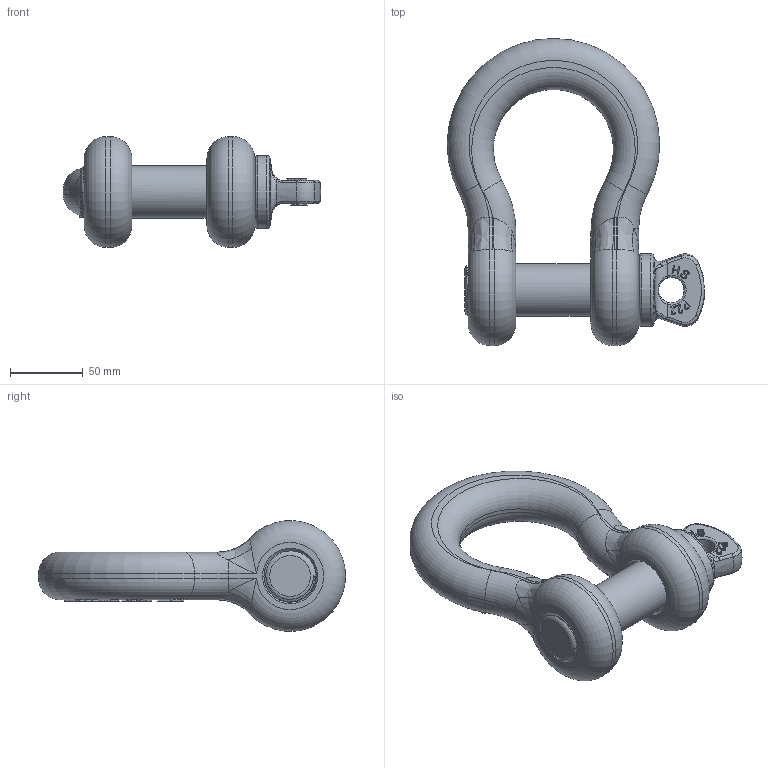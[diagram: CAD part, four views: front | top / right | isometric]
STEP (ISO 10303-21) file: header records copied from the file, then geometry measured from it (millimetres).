
FILE_DESCRIPTION(/* description */ (''),/* implementation_level */ '2;1');
FILE_NAME(/* name */ 'G-209A-1-1-4.stp',/* time_stamp */ '2025-04-07T11:05:06+08:00',/* author */ (''),/* organization */ (''),/* preprocessor_version */ 'ST-DEVELOPER v16',/* originating_system */ 'SIEMENS PLM Software NX 10.0',/* authorisation */ '');
FILE_SCHEMA (('AP203_CONFIGURATION_CONTROLLED_3D_DESIGN_OF_MECHANICAL_PARTS_AND_ASSEMBLIES_MIM_LF { 1 0 10303 403 2 1 2}'));
Length unit declared in the file: millimetre
Products named in the file (1): Admi2C384395bu72
Bounding box: 176.97 x 211.1 x 76.16 mm (x, y, z)
Volume: 625948.5 mm3; surface area: 88544.8 mm2
Topology: 2 solids, 2 shells, 561 faces, 1543 edges, 995 vertices
Faces by surface type: plane 244, extrusion 147, cylinder 70, bspline 52, torus 38, cone 9, sphere 1
Full cylindrical faces by diameter (mm): 17.5 x1, 36 x7, 38 x1, 50 x1
Entity records: 24260 total; most frequent: CARTESIAN_POINT 11821, ORIENTED_EDGE 2970, DIRECTION 1826, EDGE_CURVE 1485, VERTEX_POINT 969, B_SPLINE_CURVE_WITH_KNOTS 903, VECTOR 632, AXIS2_PLACEMENT_3D 597
